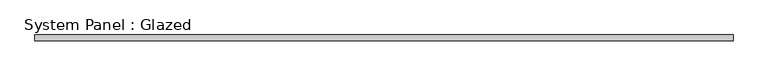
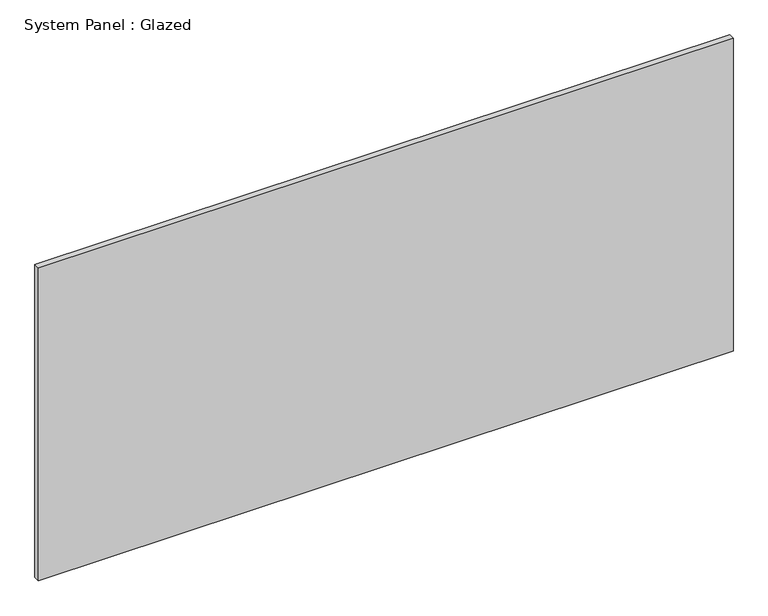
"""IFC4 building model written with IfcOpenShell, lengths in millimetres: plate geometry, System Panel : Glazed."""

from ifc_helpers import new_model, si_unit, origin, origin_with_axes, place, context, project, spatial, polyline, outline, extrude, source, transform, mapped, element, save


def system_panel_glazed_31ea7d48(model_context):
    return source(origin(), model_context, "Body", "SweptSolid", [
        extrude(outline(polyline([(1049.75, -9.0), (-1049.75, -9.0), (-1049.75, 9.0), (1049.75, 9.0), (1049.75, -9.0)])), origin_with_axes(), (0.0, 0.0, 1.0), 999.8333333),
    ])


if __name__ == "__main__":
    model = new_model("IFC4")
    model_context = context("Model", 3, world=origin())
    ifc_project = project(units=[si_unit("LENGTHUNIT", "METRE", prefix="MILLI")], contexts=[model_context])
    site = spatial("IfcSite", under=ifc_project)
    building = spatial("IfcBuilding", under=site)
    placement = place(None, origin())
    system_panel_glazed_shape = system_panel_glazed_31ea7d48(model_context)
    element("IfcPlate", 1, ObjectType="System Panel : Glazed", at=placement, inside=building, context=model_context, shape_type="MappedRepresentation", body=[
        mapped(system_panel_glazed_shape, transform((0.0, 0.0, 0.0), x_axis=(1.0, 0.0, 0.0), y_axis=(0.0, 1.0, 0.0), z_axis=(0.0, 0.0, 1.0))),
    ])
    save(model, "model.ifc")
